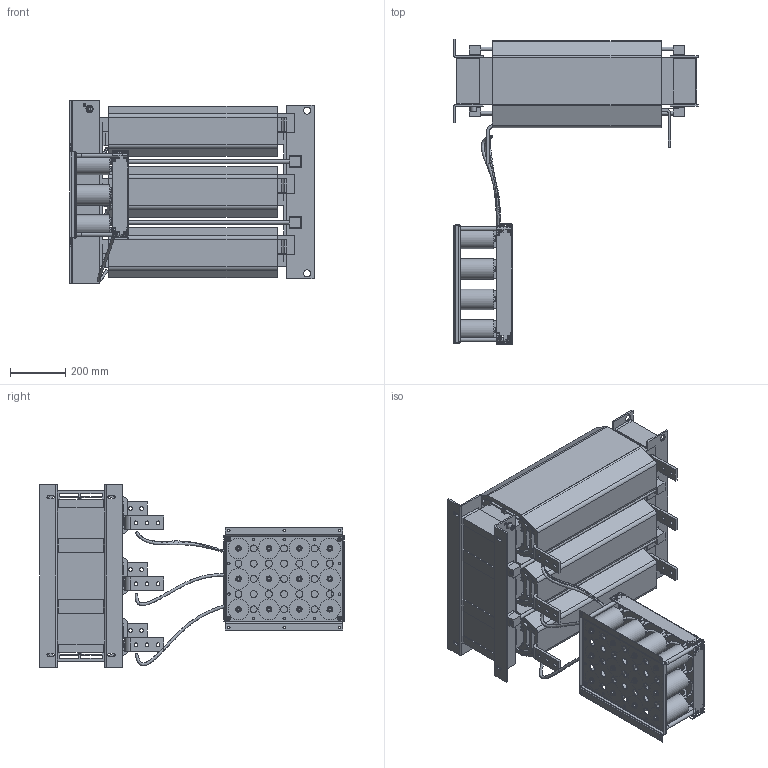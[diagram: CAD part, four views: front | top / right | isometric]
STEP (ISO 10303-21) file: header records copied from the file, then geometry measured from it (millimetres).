
FILE_DESCRIPTION((''),'2;1');
FILE_NAME('C:\Users\jingli.yang\Desktop\TEMP\880\FN5040-880-99.stp','2013-09-30T18:43:07',('jingli.yang'),(''),'Autodesk Inventor 2013','Autodesk Inventor 2013','');
FILE_SCHEMA(('AUTOMOTIVE_DESIGN { 1 0 10303 214 1 1 1 1 }'));
Length unit declared in the file: millimetre
Products named in the file (4): Assembly2; ASSEMBLY; CABLES; CAPS
Assembly tree (3 placements, depth 2):
  Assembly2
    ASSEMBLY
    CABLES
    CAPS
Bounding box: 882 x 1101.82 x 660 mm (x, y, z)
Volume: 98316734.8 mm3; surface area: 11817304.9 mm2
Topology: 6 solids, 43 shells, 2716 faces, 7820 edges, 5081 vertices
Faces by surface type: plane 1825, cylinder 640, cone 218, bspline 33
Full cylindrical faces by diameter (mm): 4.8 x6, 6.647 x8, 7.9 x1, 8 x1, 9 x20, 10 x29, 12 x28, 13 x16, 13.5 x15, 14 x8, 15 x4, 20 x1, 25 x27, 75 x12
Entity records: 100025 total; most frequent: CARTESIAN_POINT 26712, ORIENTED_EDGE 14788, DIRECTION 13796, EDGE_CURVE 7419, VECTOR 5332, LINE 5332, VERTEX_POINT 5002, AXIS2_PLACEMENT_3D 4232
